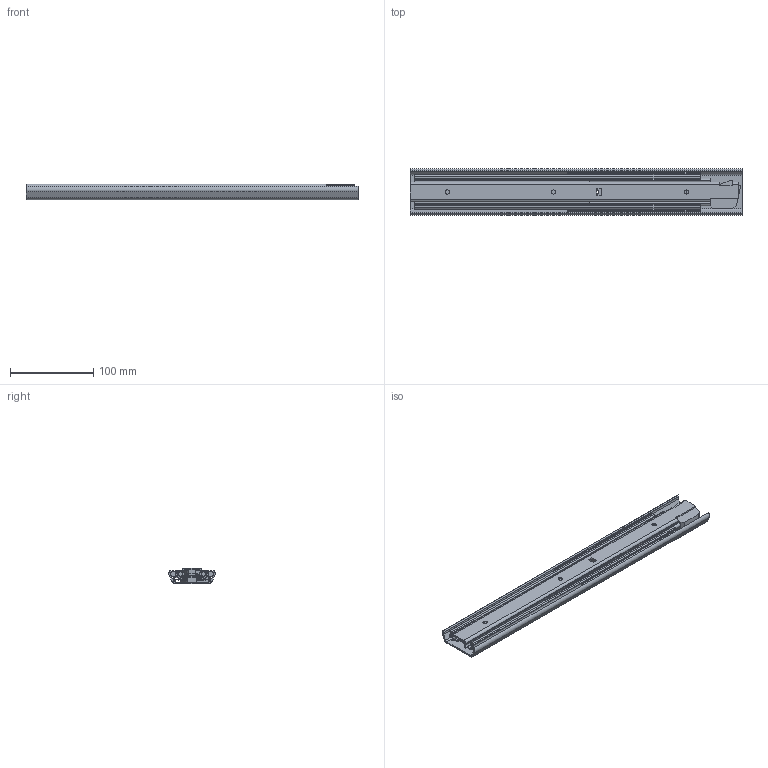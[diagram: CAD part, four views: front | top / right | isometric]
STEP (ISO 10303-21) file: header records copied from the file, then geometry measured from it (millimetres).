
FILE_DESCRIPTION( ( 'STEP AP203' ), '1' );
FILE_NAME( 'C:/Temp/Ganter_Step_05_03_2020/data/3_8/gn1422/Telescopic slide GN 1422-400-B-2-ZB (0).stp', '2020-03-12T15:26:03', ( 'License CC BY-ND 4.0' ), ( 'CADENAS' ), ' ', 'PARTsolutions', ' ' );
FILE_SCHEMA( ( 'CONFIG_CONTROL_DESIGN' ) );
Length unit declared in the file: millimetre
Products named in the file (4): Telescopic slide GN 1422-400-B-2-ZB (0); _Telescopic slide GN 1422-400-B-2-ZB (0)-1; _Telescopic slide GN 1422-400-B-2-ZB (0)-2; _Telescopic slide GN 1422-400-B-2-ZB (0)-3
Assembly tree (3 placements, depth 2):
  Telescopic slide GN 1422-400-B-2-ZB (0)
    _Telescopic slide GN 1422-400-B-2-ZB (0)-1
    _Telescopic slide GN 1422-400-B-2-ZB (0)-2
    _Telescopic slide GN 1422-400-B-2-ZB (0)-3
Bounding box: 400 x 55.78 x 18.5 mm (x, y, z)
Volume: 162810.2 mm3; surface area: 170429.2 mm2
Topology: 3 solids, 3 shells, 320 faces, 941 edges, 618 vertices
Faces by surface type: plane 190, cylinder 123, cone 7
Full cylindrical faces by diameter (mm): 5 x3, 6.5 x4, 11 x3
Entity records: 10840 total; most frequent: CARTESIAN_POINT 1980, ORIENTED_EDGE 1842, DIRECTION 1823, EDGE_CURVE 921, LINE 643, VECTOR 643, VERTEX_POINT 615, AXIS2_PLACEMENT_3D 590
